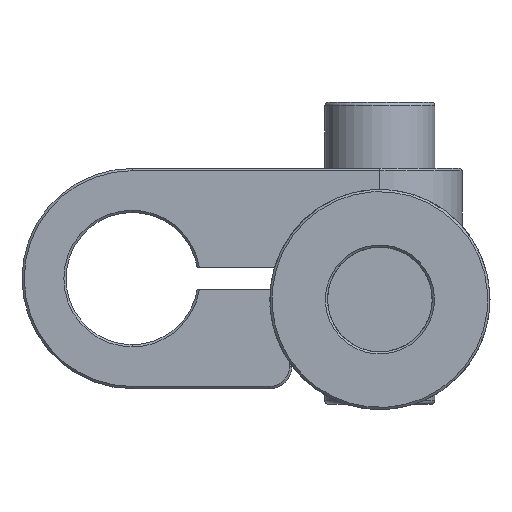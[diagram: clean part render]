
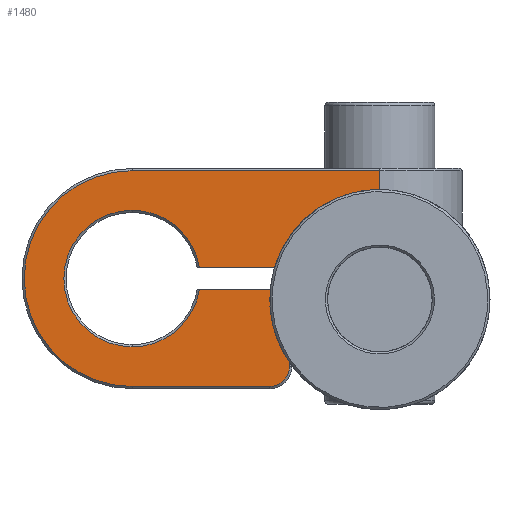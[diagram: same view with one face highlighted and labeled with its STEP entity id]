
A CAD part, front view. The second image highlights one B-rep face of the part: STEP entity #1480.
In plain terms, the highlighted planar face has unit normal (0, -1, 0).
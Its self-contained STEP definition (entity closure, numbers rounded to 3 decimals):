
#1244=CIRCLE('',#4966,6.2);
#1245=CIRCLE('',#4968,6.2);
#1246=CIRCLE('',#4972,1.8);
#1256=CIRCLE('',#4993,6.2);
#1258=CIRCLE('',#4996,1.2);
#1262=CIRCLE('',#5006,9.8);
#1480=ADVANCED_FACE('',(#1774),#1643,.F.);
#1643=PLANE('',#5007);
#1774=FACE_OUTER_BOUND('',#2004,.T.);
#2004=EDGE_LOOP('',(#2761,#2762,#2763,#2764,#2765,#2766,#2767,#2768,#2769,
#2770,#2771,#2772,#2773));
#2761=ORIENTED_EDGE('',*,*,#4016,.F.);
#2762=ORIENTED_EDGE('',*,*,#4000,.T.);
#2763=ORIENTED_EDGE('',*,*,#4007,.T.);
#2764=ORIENTED_EDGE('',*,*,#4013,.F.);
#2765=ORIENTED_EDGE('',*,*,#4017,.T.);
#2766=ORIENTED_EDGE('',*,*,#4018,.T.);
#2767=ORIENTED_EDGE('',*,*,#3979,.T.);
#2768=ORIENTED_EDGE('',*,*,#3968,.T.);
#2769=ORIENTED_EDGE('',*,*,#3966,.T.);
#2770=ORIENTED_EDGE('',*,*,#3964,.F.);
#2771=ORIENTED_EDGE('',*,*,#3961,.T.);
#2772=ORIENTED_EDGE('',*,*,#3959,.T.);
#2773=ORIENTED_EDGE('',*,*,#3996,.T.);
#3523=VERTEX_POINT('',#8610);
#3524=VERTEX_POINT('',#8612);
#3525=VERTEX_POINT('',#8616);
#3526=VERTEX_POINT('',#8624);
#3527=VERTEX_POINT('',#8628);
#3528=VERTEX_POINT('',#8632);
#3534=VERTEX_POINT('',#8654);
#3545=VERTEX_POINT('',#8693);
#3547=VERTEX_POINT('',#8698);
#3549=VERTEX_POINT('',#8702);
#3553=VERTEX_POINT('',#8716);
#3556=VERTEX_POINT('',#8728);
#3557=VERTEX_POINT('',#8734);
#3959=EDGE_CURVE('',#3524,#3523,#1244,.T.);
#3961=EDGE_CURVE('',#3525,#3524,#1245,.T.);
#3964=EDGE_CURVE('',#3525,#3526,#4390,.T.);
#3966=EDGE_CURVE('',#3527,#3526,#4392,.T.);
#3968=EDGE_CURVE('',#3528,#3527,#1246,.T.);
#3979=EDGE_CURVE('',#3534,#3528,#4400,.T.);
#3996=EDGE_CURVE('',#3523,#3545,#1256,.T.);
#4000=EDGE_CURVE('',#3547,#3549,#1258,.T.);
#4007=EDGE_CURVE('',#3549,#3553,#4418,.T.);
#4013=EDGE_CURVE('',#3556,#3553,#4423,.T.);
#4016=EDGE_CURVE('',#3547,#3545,#4424,.T.);
#4017=EDGE_CURVE('',#3556,#3557,#4425,.T.);
#4018=EDGE_CURVE('',#3557,#3534,#1262,.T.);
#4390=LINE('',#8623,#4646);
#4392=LINE('',#8627,#4648);
#4400=LINE('',#8653,#4656);
#4418=LINE('',#8717,#4674);
#4423=LINE('',#8727,#4679);
#4424=LINE('',#8732,#4680);
#4425=LINE('',#8733,#4681);
#4646=VECTOR('',#5720,1.);
#4648=VECTOR('',#5724,1.);
#4656=VECTOR('',#5754,1.);
#4674=VECTOR('',#5808,1.);
#4679=VECTOR('',#5819,1.);
#4680=VECTOR('',#5826,1.);
#4681=VECTOR('',#5827,1.);
#4966=AXIS2_PLACEMENT_3D('',#8611,#5710,#5711);
#4968=AXIS2_PLACEMENT_3D('',#8615,#5715,#5716);
#4972=AXIS2_PLACEMENT_3D('',#8631,#5728,#5729);
#4993=AXIS2_PLACEMENT_3D('',#8694,#5786,#5787);
#4996=AXIS2_PLACEMENT_3D('',#8703,#5794,#5795);
#5006=AXIS2_PLACEMENT_3D('',#8735,#5828,#5829);
#5007=AXIS2_PLACEMENT_3D('',#8736,#5830,#5831);
#5710=DIRECTION('',(0.,1.,0.));
#5711=DIRECTION('',(0.,0.,1.));
#5715=DIRECTION('',(0.,1.,0.));
#5716=DIRECTION('',(0.,0.,1.));
#5720=DIRECTION('',(1.,0.,0.));
#5724=DIRECTION('',(0.,0.,1.));
#5728=DIRECTION('',(0.,-1.,0.));
#5729=DIRECTION('',(0.,0.,1.));
#5754=DIRECTION('',(1.,0.,0.));
#5786=DIRECTION('',(0.,1.,0.));
#5787=DIRECTION('',(0.,0.,1.));
#5794=DIRECTION('',(0.,1.,0.));
#5795=DIRECTION('',(0.,0.,1.));
#5808=DIRECTION('',(1.,0.,0.));
#5819=DIRECTION('',(0.,0.,-1.));
#5826=DIRECTION('',(-1.,0.,0.));
#5827=DIRECTION('',(-1.,0.,0.));
#5828=DIRECTION('',(0.,-1.,0.));
#5829=DIRECTION('',(0.,0.,1.));
#5830=DIRECTION('',(0.,1.,0.));
#5831=DIRECTION('',(0.,0.,1.));
#8610=CARTESIAN_POINT('',(-15.,4.,4.6));
#8611=CARTESIAN_POINT('',(-15.,4.,-1.6));
#8612=CARTESIAN_POINT('',(-15.,4.,-7.8));
#8615=CARTESIAN_POINT('',(-15.,4.,-1.6));
#8616=CARTESIAN_POINT('',(-8.881,4.,-2.6));
#8623=CARTESIAN_POINT('',(-5.,4.,-2.6));
#8624=CARTESIAN_POINT('',(-0.7,4.,-2.6));
#8627=CARTESIAN_POINT('',(-0.7,4.,-1.6));
#8628=CARTESIAN_POINT('',(-0.7,4.,-9.6));
#8631=CARTESIAN_POINT('',(-2.5,4.,-9.6));
#8632=CARTESIAN_POINT('',(-2.5,4.,-11.4));
#8653=CARTESIAN_POINT('',(-5.,4.,-11.4));
#8654=CARTESIAN_POINT('',(-15.,4.,-11.4));
#8693=CARTESIAN_POINT('',(-8.881,4.,-0.6));
#8694=CARTESIAN_POINT('',(-15.,4.,-1.6));
#8698=CARTESIAN_POINT('',(-0.7,4.,-0.6));
#8702=CARTESIAN_POINT('',(0.5,4.,0.6));
#8703=CARTESIAN_POINT('',(0.5,4.,-0.6));
#8716=CARTESIAN_POINT('',(7.5,4.,0.6));
#8717=CARTESIAN_POINT('',(-5.,4.,0.6));
#8727=CARTESIAN_POINT('',(7.5,4.,-1.6));
#8728=CARTESIAN_POINT('',(7.5,4.,8.2));
#8732=CARTESIAN_POINT('',(-5.,4.,-0.6));
#8733=CARTESIAN_POINT('',(-5.,4.,8.2));
#8734=CARTESIAN_POINT('',(-15.,4.,8.2));
#8735=CARTESIAN_POINT('',(-15.,4.,-1.6));
#8736=CARTESIAN_POINT('',(-5.,4.,-1.6));
